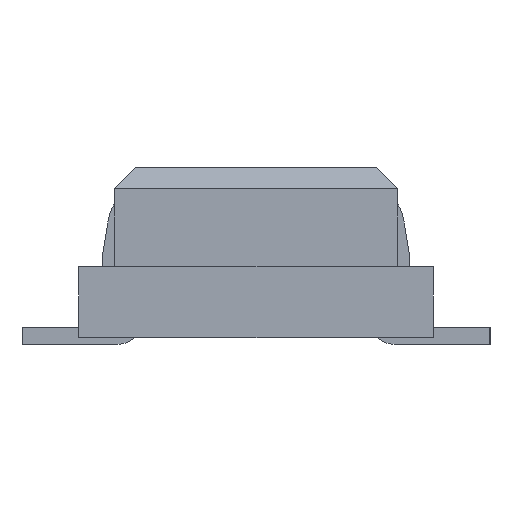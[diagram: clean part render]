
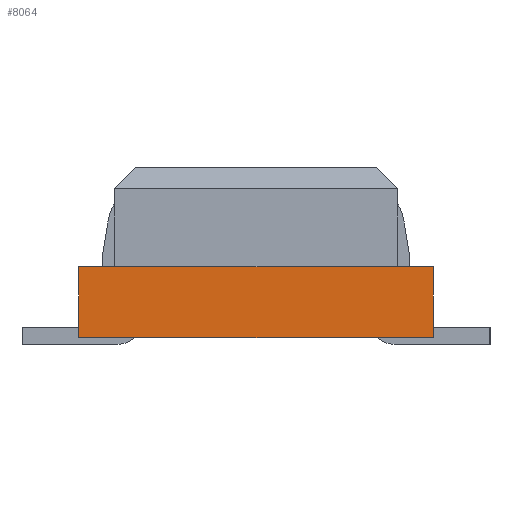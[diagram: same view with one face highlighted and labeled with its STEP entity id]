
A CAD part, left-side view. The second image highlights one B-rep face of the part: STEP entity #8064.
In plain terms, the highlighted planar face has unit normal (-1, 0, 0).
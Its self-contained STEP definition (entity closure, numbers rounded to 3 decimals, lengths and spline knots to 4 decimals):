
#50 = VERTEX_POINT ( 'NONE', #5206 ) ;
#51 = VERTEX_POINT ( 'NONE', #5207 ) ;
#52 = VERTEX_POINT ( 'NONE', #5208 ) ;
#53 = VERTEX_POINT ( 'NONE', #5209 ) ;
#4335 = EDGE_LOOP ( 'NONE', ( #9203, #9205, #9208, #9210 ) ) ;
#5206 = CARTESIAN_POINT ( 'NONE',  ( -11.5, 1.25, 0.55 ) ) ;
#5207 = CARTESIAN_POINT ( 'NONE',  ( -11.5, -1.25, 0.55 ) ) ;
#5208 = CARTESIAN_POINT ( 'NONE',  ( -11.5, 1.25, 0.05 ) ) ;
#5209 = CARTESIAN_POINT ( 'NONE',  ( -11.5, -1.25, 0.05 ) ) ;
#8064 = ADVANCED_FACE ( 'NONE', ( #13519 ), #45109, .F. ) ;
#9203 = ORIENTED_EDGE ( 'NONE', *, *, #38379, .T. ) ;
#9205 = ORIENTED_EDGE ( 'NONE', *, *, #38380, .F. ) ;
#9208 = ORIENTED_EDGE ( 'NONE', *, *, #38377, .F. ) ;
#9210 = ORIENTED_EDGE ( 'NONE', *, *, #38381, .T. ) ;
#13519 = FACE_OUTER_BOUND ( 'NONE', #4335, .T. ) ;
#15840 = LINE ( 'NONE', #17440, #15841 ) ;
#15841 = VECTOR ( 'NONE', #17441, 1000. ) ;
#15844 = LINE ( 'NONE', #17444, #15845 ) ;
#15845 = VECTOR ( 'NONE', #17445, 1000. ) ;
#15846 = LINE ( 'NONE', #17446, #15847 ) ;
#15847 = VECTOR ( 'NONE', #17447, 1000. ) ;
#15848 = LINE ( 'NONE', #17448, #15849 ) ;
#15849 = VECTOR ( 'NONE', #17449, 1000. ) ;
#17440 = CARTESIAN_POINT ( 'NONE',  ( -11.5, 0., 0.55 ) ) ;
#17441 = DIRECTION ( 'NONE',  ( 0., -1., 0. ) ) ;
#17444 = CARTESIAN_POINT ( 'NONE',  ( -11.5, 0., 0.05 ) ) ;
#17445 = DIRECTION ( 'NONE',  ( 0., -1., 0. ) ) ;
#17446 = CARTESIAN_POINT ( 'NONE',  ( -11.5, -1.25, 0.55 ) ) ;
#17447 = DIRECTION ( 'NONE',  ( 0., 0., -1. ) ) ;
#17448 = CARTESIAN_POINT ( 'NONE',  ( -11.5, 1.25, 0.55 ) ) ;
#17449 = DIRECTION ( 'NONE',  ( 0., 0., -1. ) ) ;
#38377 = EDGE_CURVE ( 'NONE', #50, #51, #15840, .T. ) ;
#38379 = EDGE_CURVE ( 'NONE', #52, #53, #15844, .T. ) ;
#38380 = EDGE_CURVE ( 'NONE', #51, #53, #15846, .T. ) ;
#38381 = EDGE_CURVE ( 'NONE', #50, #52, #15848, .T. ) ;
#41940 = AXIS2_PLACEMENT_3D ( 'NONE', #45110, #45111, #45112 ) ;
#45109 = PLANE ( 'NONE',  #41940 ) ;
#45110 = CARTESIAN_POINT ( 'NONE',  ( -11.5, 0., 0.55 ) ) ;
#45111 = DIRECTION ( 'NONE',  ( 1., 0., 0. ) ) ;
#45112 = DIRECTION ( 'NONE',  ( 0., 1., 0. ) ) ;
